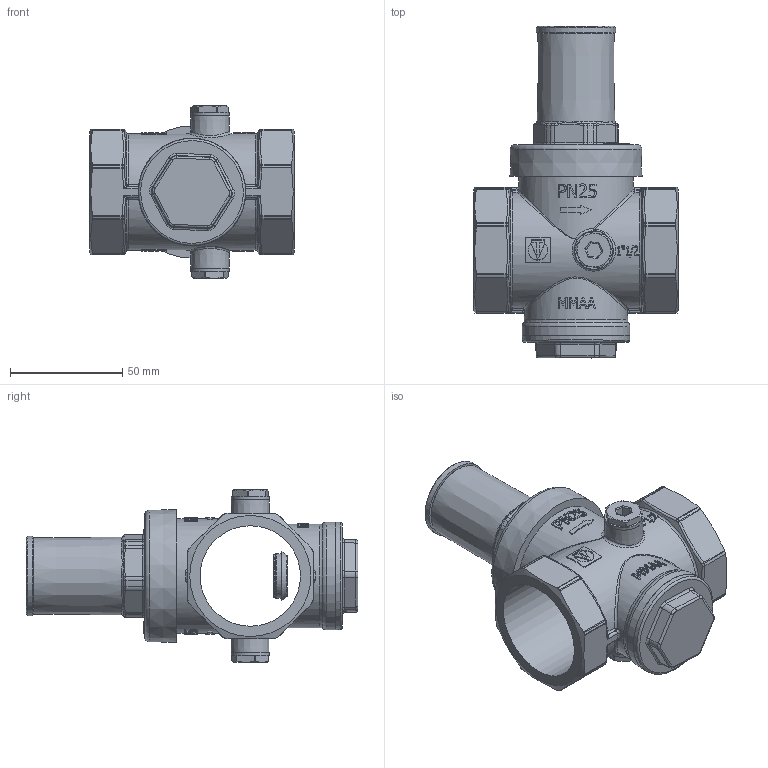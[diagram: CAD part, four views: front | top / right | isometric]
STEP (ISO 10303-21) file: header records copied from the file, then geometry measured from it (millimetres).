
FILE_DESCRIPTION(/* description */ (''),/* implementation_level */ '2;1');
FILE_NAME(/* name */ 'F:\Артём\00000\Работа удаленка\VALTEC 3D 2021-25\VT.086.NH.08.stp',/* time_stamp */ '2021-10-04T13:03:00+03:00',/* author */ ('almis'),/* organization */ (''),/* preprocessor_version */ 'ST-DEVELOPER v18',/* originating_system */ 'Autodesk Inventor 2020',/* authorisation */ '');
FILE_SCHEMA (('AUTOMOTIVE_DESIGN { 1 0 10303 214 3 1 1 }'));
Length unit declared in the file: millimetre
Products named in the file (1): VT.086.NH.08
Bounding box: 91 x 148 x 77 mm (x, y, z)
Volume: 255205.4 mm3; surface area: 64745.8 mm2
Topology: 7 solids, 7 shells, 1106 faces, 2819 edges, 1779 vertices
Faces by surface type: plane 486, cylinder 215, bspline 215, torus 83, cone 66, sphere 41
Full cylindrical faces by diameter (mm): 5 x1, 11 x4, 13.157 x2, 17.1 x2, 17.5 x1, 19 x1, 20 x1, 35.5 x1, 40.4 x1, 42 x1, 44.8 x1, 46 x1, 48 x1, 51 x1, 52.5 x1, 55 x1
Entity records: 43182 total; most frequent: CARTESIAN_POINT 16642, ORIENTED_EDGE 5622, DIRECTION 4967, EDGE_CURVE 2811, AXIS2_PLACEMENT_3D 1854, VERTEX_POINT 1779, LINE 1259, VECTOR 1259
